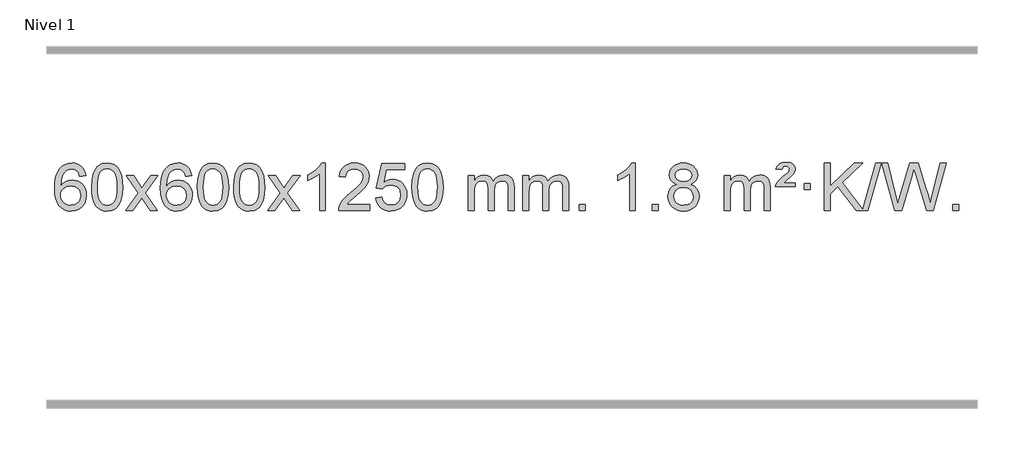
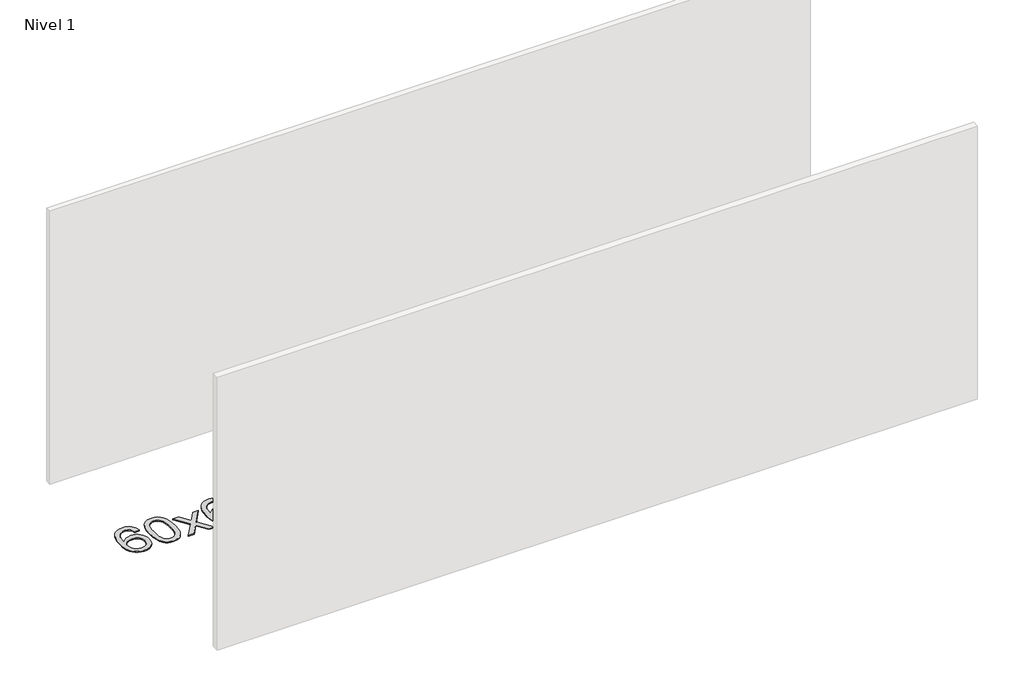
# One storey, part 6 of 8: 1 proxy.
"""IFC4 building model written with IfcOpenShell, lengths in millimetres."""

from ifc_helpers import new_model, si_unit, origin, origin_with_axes, place, context, project, spatial, polyline, outline, extrude, element, save

model = new_model("IFC4")

# Units and contexts
model_context = context("Model", 3, world=origin())
ifc_project = project(units=[si_unit("LENGTHUNIT", "METRE", prefix="MILLI")], contexts=[model_context])

# Site, building, storey
site = spatial("IfcSite", under=ifc_project)
building = spatial("IfcBuilding", under=site)
storey = spatial("IfcBuildingStorey", under=building, Name="Nivel 1", Elevation=0.0)

# Proxy
placement = place(None, origin())
element("IfcBuildingElementProxy", 1, Name="Texto de modelo 1", ObjectType="Texto de modelo 1", at=placement, inside=storey, context=model_context, shape_type="SweptSolid", body=[
    extrude(outline(polyline([(-6198.7504157, -3100.4890419), (-6248.9785708, -3106.7675613), (-6257.0719747, -3081.874213), (-6268.0103327, -3064.8780648), (-6290.7944909, -3049.2062918), (-6318.3365896, -3043.9823675), (-6341.6848336, -3047.0235253), (-6363.6596514, -3056.1469988), (-6382.5319978, -3075.3627017), (-6397.9462534, -3101.8134171), (-6408.3573138, -3139.227016), (-6412.2200748, -3191.3313693), (-6392.0724042, -3167.8237098), (-6367.9270826, -3151.2567573), (-6341.1330106, -3141.434308), (-6313.0390889, -3138.1601582), (-6288.90603, -3140.398107), (-6266.6369065, -3147.1119534), (-6246.2317185, -3158.3016975), (-6227.690466, -3173.9673391), (-6212.2823418, -3193.1769106), (-6201.2765387, -3214.9984443), (-6194.6730569, -3239.4319401), (-6192.4718963, -3266.4773982), (-6196.6167001, -3302.4439945), (-6209.0511116, -3335.786366), (-6228.745061, -3364.0642287), (-6254.668479, -3384.8372987), (-6285.644143, -3397.602804), (-6320.4948306, -3401.8579724), (-6350.4373594, -3399.0375437), (-6377.4797517, -3390.5762579), (-6401.6220076, -3376.4741147), (-6422.8641272, -3356.7311143), (-6440.1821721, -3330.5133908), (-6452.5522042, -3296.9870783), (-6459.9742234, -3256.1521768), (-6462.4482298, -3208.0086864), (-6459.7013776, -3154.0342663), (-6451.4608209, -3107.9693092), (-6437.7265598, -3069.8138149), (-6418.4985942, -3039.5677835), (-6397.6580791, -3019.5243462), (-6373.4943634, -3005.2076052), (-6346.007447, -2996.6175606), (-6315.1973299, -2993.7542124), (-6292.0636838, -2995.5261773), (-6271.1250669, -3000.8420722), (-6252.3814792, -3009.7018969), (-6235.8329208, -3022.1056515), (-6221.9269814, -3037.6364031), (-6211.1112507, -3055.8772186), (-6203.3857288, -3076.8280983), (-6198.7504157, -3100.4890419)]), holes=[polyline([(-6412.2200748, -3265.6925832), (-6409.313807, -3287.9494439), (-6400.5950037, -3309.2007605), (-6387.0569463, -3327.472233), (-6369.6929161, -3340.7895612), (-6348.7359051, -3348.9197533), (-6324.4189053, -3351.6298173), (-6291.2727375, -3346.0134855), (-6277.357601, -3338.9930708), (-6265.2144295, -3329.1644901), (-6255.3643891, -3316.9262824), (-6248.3286459, -3302.6769865), (-6242.7000514, -3268.1451299), (-6248.2550695, -3234.9989621), (-6255.1988422, -3221.3781312), (-6264.9201239, -3209.725469), (-6277.1000836, -3200.3904634), (-6291.4198903, -3193.7226022), (-6326.4790444, -3188.3883133), (-6359.5761613, -3193.7226022), (-6387.25315, -3209.725469), (-6398.1761796, -3221.2248471), (-6405.9783436, -3234.3858254), (-6410.659642, -3249.2084042), (-6412.2200748, -3265.6925832)])]), origin_with_axes(), (0.0, 0.0, 1.0), 10.0),
    extrude(outline(polyline([(-6148.5222606, -3197.9041943), (-6144.8311779, -3133.5861588), (-6133.7579299, -3082.2911459), (-6115.4128811, -3043.2343407), (-6103.5548181, -3028.0009605), (-6089.9063961, -3015.6309284), (-6074.4216298, -3006.0598651), (-6057.0545339, -2999.2233914), (-6016.6733536, -2993.7542124), (-5985.722215, -2996.991574), (-5958.0084381, -3006.7036586), (-5934.8318724, -3022.5103217), (-5917.4923677, -3044.0314184), (-5904.3957686, -3071.0830078), (-5893.94792, -3103.4811488), (-5887.1053149, -3144.6226186), (-5884.8244465, -3197.9041943), (-5888.478741, -3261.8543477), (-5899.4416244, -3313.0267333), (-5917.6763087, -3352.1203266), (-5929.5067805, -3367.3996922), (-5943.1460055, -3379.8341036), (-5958.6491659, -3389.4695462), (-5976.071444, -3396.3520052), (-6016.6733536, -3401.8579724), (-6044.3380796, -3399.4667394), (-6068.8635459, -3392.2930405), (-6090.2497526, -3380.3368757), (-6108.4966996, -3363.5982449), (-6126.0078825, -3333.3399508), (-6138.5158704, -3295.6381776), (-6146.0206631, -3250.4929255), (-6148.5222606, -3197.9041943)]), holes=[polyline([(-6098.2941056, -3197.8060924), (-6096.8225776, -3241.4706195), (-6092.4079936, -3276.8148822), (-6085.0503537, -3303.8388804), (-6074.7496579, -3322.5426142), (-6062.290721, -3335.2682656), (-6048.4583579, -3344.3580165), (-6033.2525688, -3349.8118671), (-6016.6733536, -3351.6298173), (-6000.0941383, -3349.8057357), (-5984.8883492, -3344.3334911), (-5971.0559862, -3335.2130833), (-5958.5970493, -3322.4445124), (-5948.2963534, -3303.7101217), (-5940.9387135, -3276.6922549), (-5936.5241295, -3241.3909118), (-5935.0526016, -3197.8060924), (-5936.4750786, -3155.2973278), (-5940.7425098, -3120.5753989), (-5947.854895, -3093.6403055), (-5957.8122343, -3074.4920476), (-5970.0627048, -3061.1440625), (-5984.0544833, -3051.6097875), (-5999.78757, -3045.8892225), (-6017.2619648, -3043.9823675), (-6033.7553409, -3045.6623619), (-6048.7036126, -3050.7023452), (-6062.10678, -3059.1023175), (-6073.9648429, -3070.8622786), (-6084.6088953, -3091.708925), (-6092.2117899, -3119.8151094), (-6096.7735266, -3155.1808319), (-6098.2941056, -3197.8060924)])]), origin_with_axes(), (0.0, 0.0, 1.0), 10.0),
    extrude(outline(polyline([(-5859.7103689, -3395.579453), (-5752.3869282, -3247.2494325), (-5853.4318496, -3100.4890419), (-5793.0011005, -3100.4890419), (-5744.2444734, -3171.122385), (-5721.4848406, -3204.4770192), (-5701.7663657, -3177.2047007), (-5646.2407099, -3100.4890419), (-5585.8099608, -3100.4890419), (-5691.9561791, -3247.2494325), (-5589.7340354, -3395.579453), (-5650.1647845, -3395.579453), (-5711.6746541, -3306.4048574), (-5722.9563686, -3290.1199477), (-5799.2796199, -3395.579453), (-5859.7103689, -3395.579453)])), origin_with_axes(), (0.0, 0.0, 1.0), 10.0),
    extrude(outline(polyline([(-5300.9221437, -3100.4890419), (-5351.1502988, -3106.7675613), (-5359.2437027, -3081.874213), (-5370.1820607, -3064.8780648), (-5392.9662189, -3049.2062918), (-5420.5083176, -3043.9823675), (-5443.8565616, -3047.0235253), (-5465.8313794, -3056.1469988), (-5484.7037258, -3075.3627017), (-5500.1179814, -3101.8134171), (-5510.5290419, -3139.227016), (-5514.3918028, -3191.3313693), (-5494.2441322, -3167.8237098), (-5470.0988106, -3151.2567573), (-5443.3047386, -3141.434308), (-5415.2108169, -3138.1601582), (-5391.077758, -3140.398107), (-5368.8086346, -3147.1119534), (-5348.4034466, -3158.3016975), (-5329.862194, -3173.9673391), (-5314.4540698, -3193.1769106), (-5303.4482668, -3214.9984443), (-5296.844785, -3239.4319401), (-5294.6436244, -3266.4773982), (-5298.7884282, -3302.4439945), (-5311.2228396, -3335.786366), (-5330.9167891, -3364.0642287), (-5356.840207, -3384.8372987), (-5387.815871, -3397.602804), (-5422.6665587, -3401.8579724), (-5452.6090874, -3399.0375437), (-5479.6514797, -3390.5762579), (-5503.7937357, -3376.4741147), (-5525.0358552, -3356.7311143), (-5542.3539001, -3330.5133908), (-5554.7239322, -3296.9870783), (-5562.1459515, -3256.1521768), (-5564.6199579, -3208.0086864), (-5561.8731057, -3154.0342663), (-5553.632549, -3107.9693092), (-5539.8982878, -3069.8138149), (-5520.6703222, -3039.5677835), (-5499.8298072, -3019.5243462), (-5475.6660915, -3005.2076052), (-5448.179175, -2996.6175606), (-5417.3690579, -2993.7542124), (-5394.2354118, -2995.5261773), (-5373.2967949, -3000.8420722), (-5354.5532073, -3009.7018969), (-5338.0046489, -3022.1056515), (-5324.0987094, -3037.6364031), (-5313.2829788, -3055.8772186), (-5305.5574569, -3076.8280983), (-5300.9221437, -3100.4890419)]), holes=[polyline([(-5514.3918028, -3265.6925832), (-5511.485535, -3287.9494439), (-5502.7667318, -3309.2007605), (-5489.2286743, -3327.472233), (-5471.8646442, -3340.7895612), (-5450.9076332, -3348.9197533), (-5426.5906333, -3351.6298173), (-5393.4444655, -3346.0134855), (-5379.5293291, -3338.9930708), (-5367.3861575, -3329.1644901), (-5357.5361171, -3316.9262824), (-5350.500374, -3302.6769865), (-5344.8717794, -3268.1451299), (-5350.4267976, -3234.9989621), (-5357.3705702, -3221.3781312), (-5367.0918519, -3209.725469), (-5379.2718117, -3200.3904634), (-5393.5916183, -3193.7226022), (-5428.6507725, -3188.3883133), (-5461.7478893, -3193.7226022), (-5489.4248781, -3209.725469), (-5500.3479076, -3221.2248471), (-5508.1500716, -3234.3858254), (-5512.83137, -3249.2084042), (-5514.3918028, -3265.6925832)])]), origin_with_axes(), (0.0, 0.0, 1.0), 10.0),
    extrude(outline(polyline([(-5250.6939887, -3197.9041943), (-5247.002906, -3133.5861588), (-5235.9296579, -3082.2911459), (-5217.5846091, -3043.2343407), (-5205.7265461, -3028.0009605), (-5192.0781241, -3015.6309284), (-5176.5933578, -3006.0598651), (-5159.2262619, -2999.2233914), (-5118.8450816, -2993.7542124), (-5087.8939431, -2996.991574), (-5060.1801661, -3006.7036586), (-5037.0036004, -3022.5103217), (-5019.6640957, -3044.0314184), (-5006.5674967, -3071.0830078), (-4996.119648, -3103.4811488), (-4989.2770429, -3144.6226186), (-4986.9961745, -3197.9041943), (-4990.650469, -3261.8543477), (-5001.6133525, -3313.0267333), (-5019.8480367, -3352.1203266), (-5031.6785085, -3367.3996922), (-5045.3177335, -3379.8341036), (-5060.8208939, -3389.4695462), (-5078.2431721, -3396.3520052), (-5118.8450816, -3401.8579724), (-5146.5098076, -3399.4667394), (-5171.035274, -3392.2930405), (-5192.4214806, -3380.3368757), (-5210.6684276, -3363.5982449), (-5228.1796106, -3333.3399508), (-5240.6875984, -3295.6381776), (-5248.1923911, -3250.4929255), (-5250.6939887, -3197.9041943)]), holes=[polyline([(-5200.4658336, -3197.8060924), (-5198.9943056, -3241.4706195), (-5194.5797217, -3276.8148822), (-5187.2220818, -3303.8388804), (-5176.9213859, -3322.5426142), (-5164.462449, -3335.2682656), (-5150.630086, -3344.3580165), (-5135.4242968, -3349.8118671), (-5118.8450816, -3351.6298173), (-5102.2658663, -3349.8057357), (-5087.0600772, -3344.3334911), (-5073.2277142, -3335.2130833), (-5060.7687773, -3322.4445124), (-5050.4680814, -3303.7101217), (-5043.1104415, -3276.6922549), (-5038.6958576, -3241.3909118), (-5037.2243296, -3197.8060924), (-5038.6468066, -3155.2973278), (-5042.9142378, -3120.5753989), (-5050.026623, -3093.6403055), (-5059.9839624, -3074.4920476), (-5072.2344328, -3061.1440625), (-5086.2262114, -3051.6097875), (-5101.959298, -3045.8892225), (-5119.4336928, -3043.9823675), (-5135.9270689, -3045.6623619), (-5150.8753406, -3050.7023452), (-5164.278508, -3059.1023175), (-5176.136571, -3070.8622786), (-5186.7806234, -3091.708925), (-5194.3835179, -3119.8151094), (-5198.9452547, -3155.1808319), (-5200.4658336, -3197.8060924)])]), origin_with_axes(), (0.0, 0.0, 1.0), 10.0),
    extrude(outline(polyline([(-4943.0465388, -3197.9041943), (-4939.3554561, -3133.5861588), (-4928.2822081, -3082.2911459), (-4909.9371593, -3043.2343407), (-4898.0790963, -3028.0009605), (-4884.4306743, -3015.6309284), (-4868.945908, -3006.0598651), (-4851.5788121, -2999.2233914), (-4811.1976318, -2993.7542124), (-4780.2464932, -2996.991574), (-4752.5327163, -3006.7036586), (-4729.3561506, -3022.5103217), (-4712.0166459, -3044.0314184), (-4698.9200468, -3071.0830078), (-4688.4721982, -3103.4811488), (-4681.6295931, -3144.6226186), (-4679.3487247, -3197.9041943), (-4683.0030192, -3261.8543477), (-4693.9659026, -3313.0267333), (-4712.2005869, -3352.1203266), (-4724.0310587, -3367.3996922), (-4737.6702837, -3379.8341036), (-4753.1734441, -3389.4695462), (-4770.5957222, -3396.3520052), (-4811.1976318, -3401.8579724), (-4838.8623578, -3399.4667394), (-4863.3878241, -3392.2930405), (-4884.7740308, -3380.3368757), (-4903.0209778, -3363.5982449), (-4920.5321607, -3333.3399508), (-4933.0401486, -3295.6381776), (-4940.5449413, -3250.4929255), (-4943.0465388, -3197.9041943)]), holes=[polyline([(-4892.8183838, -3197.8060924), (-4891.3468558, -3241.4706195), (-4886.9322718, -3276.8148822), (-4879.5746319, -3303.8388804), (-4869.2739361, -3322.5426142), (-4856.8149992, -3335.2682656), (-4842.9826361, -3344.3580165), (-4827.776847, -3349.8118671), (-4811.1976318, -3351.6298173), (-4794.6184165, -3349.8057357), (-4779.4126274, -3344.3334911), (-4765.5802644, -3335.2130833), (-4753.1213275, -3322.4445124), (-4742.8206316, -3303.7101217), (-4735.4629917, -3276.6922549), (-4731.0484077, -3241.3909118), (-4729.5768798, -3197.8060924), (-4730.9993568, -3155.2973278), (-4735.266788, -3120.5753989), (-4742.3791732, -3093.6403055), (-4752.3365125, -3074.4920476), (-4764.586983, -3061.1440625), (-4778.5787615, -3051.6097875), (-4794.3118482, -3045.8892225), (-4811.786243, -3043.9823675), (-4828.2796191, -3045.6623619), (-4843.2278908, -3050.7023452), (-4856.6310582, -3059.1023175), (-4868.4891211, -3070.8622786), (-4879.1331735, -3091.708925), (-4886.7360681, -3119.8151094), (-4891.2978048, -3155.1808319), (-4892.8183838, -3197.8060924)])]), origin_with_axes(), (0.0, 0.0, 1.0), 10.0),
    extrude(outline(polyline([(-4654.2346472, -3395.579453), (-4546.9112064, -3247.2494325), (-4647.9561278, -3100.4890419), (-4587.5253787, -3100.4890419), (-4538.7687516, -3171.122385), (-4516.0091188, -3204.4770192), (-4496.2906439, -3177.2047007), (-4440.7649881, -3100.4890419), (-4380.334239, -3100.4890419), (-4486.4804574, -3247.2494325), (-4384.2583136, -3395.579453), (-4444.6890627, -3395.579453), (-4506.1989323, -3306.4048574), (-4517.4806468, -3290.1199477), (-4593.8038981, -3395.579453), (-4654.2346472, -3395.579453)])), origin_with_axes(), (0.0, 0.0, 1.0), 10.0),
    extrude(outline(polyline([(-4164.5101352, -3395.579453), (-4214.7382902, -3395.579453), (-4214.7382902, -3082.4382987), (-4235.707564, -3099.3976587), (-4262.317695, -3116.3324932), (-4315.1946004, -3141.6918254), (-4315.1946004, -3094.2105225), (-4275.7453878, -3072.7507395), (-4241.5691504, -3047.219729), (-4214.6279257, -3020.0700378), (-4196.8837508, -2993.7542124), (-4164.5101352, -2993.7542124), (-4164.5101352, -3395.579453)])), origin_with_axes(), (0.0, 0.0, 1.0), 10.0),
    extrude(outline(polyline([(-3787.7989721, -3345.3512979), (-3787.7989721, -3395.579453), (-4051.4967863, -3395.579453), (-4050.3931403, -3377.8965918), (-4046.1011837, -3360.9494945), (-4033.7158232, -3333.8856424), (-4015.5915035, -3307.6311307), (-3989.37378, -3280.1503456), (-3952.7082078, -3249.4076736), (-3898.5069272, -3201.2641831), (-3865.9861588, -3165.7267824), (-3849.7257746, -3136.884834), (-3844.3056466, -3108.8277005), (-3849.4192063, -3083.6768347), (-3864.7598855, -3062.7688747), (-3888.3411214, -3048.6789943), (-3918.1763512, -3043.9823675), (-3949.5076345, -3048.5686297), (-3973.8491598, -3062.3274163), (-3989.557721, -3084.1796068), (-3994.9901118, -3113.0460807), (-4045.2182669, -3106.7675613), (-4040.8987191, -3080.838012), (-4033.0413728, -3058.1826125), (-4021.646228, -3038.8013627), (-4006.7132847, -3022.6942627), (-3988.5858994, -3010.0329907), (-3967.6074286, -3000.989225), (-3943.7778724, -2995.5629655), (-3917.0972307, -2993.7542124), (-3890.1774657, -2995.7653006), (-3866.2191508, -3001.7985654), (-3845.2222859, -3011.8540066), (-3827.1868711, -3025.9316242), (-3812.7015175, -3042.9890861), (-3802.3548364, -3061.9840598), (-3796.1468277, -3082.9165453), (-3794.0774915, -3105.7865427), (-3796.3093089, -3129.8092369), (-3803.0047612, -3153.4149983), (-3814.8873497, -3177.4254299), (-3832.6805755, -3202.6621347), (-3861.0442774, -3232.7916701), (-3904.6382938, -3271.4805933), (-3962.4202925, -3319.795762), (-3985.0818234, -3345.3512979), (-3787.7989721, -3345.3512979)])), origin_with_axes(), (0.0, 0.0, 1.0), 10.0),
    extrude(outline(polyline([(-3737.570817, -3288.8446235), (-3687.342662, -3282.5661041), (-3678.1210866, -3312.7201649), (-3662.0323807, -3334.3148381), (-3639.1501206, -3347.3010725), (-3609.5478827, -3351.6298173), (-3590.418019, -3350.1245668), (-3573.5444981, -3345.6088153), (-3558.9273202, -3338.0825628), (-3546.5664851, -3327.5458094), (-3536.7379045, -3314.519721), (-3529.7174898, -3299.5254641), (-3524.101158, -3263.6324441), (-3529.3618705, -3229.8363514), (-3535.9377612, -3215.9181493), (-3545.1440081, -3203.9865099), (-3557.0112681, -3194.4154467), (-3571.5701981, -3187.5789729), (-3608.7630678, -3182.1097939), (-3633.1291186, -3184.2925604), (-3652.8598563, -3190.8408599), (-3668.6174684, -3200.8717757), (-3681.0641426, -3213.5023908), (-3731.2922977, -3207.2238715), (-3687.342662, -3000.0327318), (-3492.708561, -3000.0327318), (-3492.708561, -3050.2608869), (-3646.7284897, -3050.2608869), (-3668.2127982, -3160.919791), (-3650.4870174, -3148.2155994), (-3632.332041, -3139.1411769), (-3613.7478688, -3133.6965234), (-3594.734501, -3131.8816388), (-3570.273414, -3134.1318504), (-3547.8050212, -3140.882485), (-3527.3293225, -3152.1335427), (-3508.8463179, -3167.8850234), (-3493.5454926, -3187.1743027), (-3482.6163316, -3209.038756), (-3476.0588351, -3233.4783832), (-3473.8730029, -3260.4931844), (-3475.8411716, -3286.5147042), (-3481.7456776, -3310.7213394), (-3491.586521, -3333.1130902), (-3505.3637017, -3353.6899565), (-3526.2348735, -3374.7634634), (-3550.5886616, -3389.8159684), (-3578.4250659, -3398.8474714), (-3609.7440864, -3401.8579724), (-3635.6644387, -3399.9235262), (-3659.077062, -3394.1201877), (-3679.9819564, -3384.447957), (-3698.3791218, -3370.9068338), (-3713.6860785, -3354.1712688), (-3725.3203466, -3334.915712), (-3733.2819261, -3313.1401636), (-3737.570817, -3288.8446235)])), origin_with_axes(), (0.0, 0.0, 1.0), 10.0),
    extrude(outline(polyline([(-3429.9233672, -3197.9041943), (-3426.2322845, -3133.5861588), (-3415.1590365, -3082.2911459), (-3396.8139876, -3043.2343407), (-3384.9559247, -3028.0009605), (-3371.3075026, -3015.6309284), (-3355.8227363, -3006.0598651), (-3338.4556405, -2999.2233914), (-3298.0744601, -2993.7542124), (-3267.1233216, -2996.991574), (-3239.4095446, -3006.7036586), (-3216.2329789, -3022.5103217), (-3198.8934742, -3044.0314184), (-3185.7968752, -3071.0830078), (-3175.3490265, -3103.4811488), (-3168.5064214, -3144.6226186), (-3166.2255531, -3197.9041943), (-3169.8798475, -3261.8543477), (-3180.842731, -3313.0267333), (-3199.0774152, -3352.1203266), (-3210.9078871, -3367.3996922), (-3224.547112, -3379.8341036), (-3240.0502724, -3389.4695462), (-3257.4725506, -3396.3520052), (-3298.0744601, -3401.8579724), (-3325.7391862, -3399.4667394), (-3350.2646525, -3392.2930405), (-3371.6508592, -3380.3368757), (-3389.8978061, -3363.5982449), (-3407.4089891, -3333.3399508), (-3419.9169769, -3295.6381776), (-3427.4217696, -3250.4929255), (-3429.9233672, -3197.9041943)]), holes=[polyline([(-3379.6952121, -3197.8060924), (-3378.2236842, -3241.4706195), (-3373.8091002, -3276.8148822), (-3366.4514603, -3303.8388804), (-3356.1507644, -3322.5426142), (-3343.6918275, -3335.2682656), (-3329.8594645, -3344.3580165), (-3314.6536754, -3349.8118671), (-3298.0744601, -3351.6298173), (-3281.4952449, -3349.8057357), (-3266.2894558, -3344.3334911), (-3252.4570927, -3335.2130833), (-3239.9981558, -3322.4445124), (-3229.69746, -3303.7101217), (-3222.3398201, -3276.6922549), (-3217.9252361, -3241.3909118), (-3216.4537081, -3197.8060924), (-3217.8761852, -3155.2973278), (-3222.1436163, -3120.5753989), (-3229.2560016, -3093.6403055), (-3239.2133409, -3074.4920476), (-3251.4638113, -3061.1440625), (-3265.4555899, -3051.6097875), (-3281.1886766, -3045.8892225), (-3298.6630713, -3043.9823675), (-3315.1564474, -3045.6623619), (-3330.1047192, -3050.7023452), (-3343.5078865, -3059.1023175), (-3355.3659495, -3070.8622786), (-3366.0100019, -3091.708925), (-3373.6128965, -3119.8151094), (-3378.1746332, -3155.1808319), (-3379.6952121, -3197.8060924)])]), origin_with_axes(), (0.0, 0.0, 1.0), 10.0),
    extrude(outline(polyline([(-2952.755894, -3395.579453), (-2952.755894, -3100.4890419), (-2902.5277389, -3100.4890419), (-2902.5277389, -3149.0494653), (-2887.4200517, -3126.7435537), (-2867.9958823, -3109.2691589), (-2844.9174185, -3097.9751816), (-2818.8468478, -3094.2105225), (-2790.9123416, -3098.048758), (-2768.5205908, -3109.5634645), (-2751.7942228, -3127.9943524), (-2740.8558648, -3152.5811324), (-2722.5476041, -3127.0439906), (-2701.6641696, -3108.803175), (-2678.205561, -3097.8586857), (-2652.1717785, -3094.2105225), (-2632.0639617, -3095.7280358), (-2614.414823, -3100.2805755), (-2599.2243623, -3107.8681416), (-2586.4925796, -3118.4907342), (-2576.4279413, -3132.2709806), (-2569.238914, -3149.3315082), (-2564.9254976, -3169.6723168), (-2563.4876922, -3193.2934066), (-2563.4876922, -3395.579453), (-2613.7158472, -3395.579453), (-2613.7158472, -3214.875817), (-2614.8808069, -3189.8230531), (-2618.3756858, -3172.9372695), (-2624.9239854, -3161.3735121), (-2635.2492067, -3152.2868268), (-2648.5297467, -3146.4007149), (-2663.9440023, -3144.4386776), (-2691.1550072, -3149.4663982), (-2713.3382915, -3164.54956), (-2721.9436645, -3176.1194488), (-2728.0903595, -3190.7182326), (-2733.0077155, -3229.0024856), (-2733.0077155, -3395.579453), (-2783.2358706, -3395.579453), (-2783.2358706, -3209.2840106), (-2786.1421384, -3180.8835206), (-2794.8609417, -3160.6254854), (-2810.2016209, -3148.4853796), (-2832.9735164, -3144.4386776), (-2852.3241093, -3147.1364789), (-2870.1541233, -3155.2298828), (-2884.8694032, -3168.5226856), (-2894.8757934, -3186.8186835), (-2900.6147525, -3212.2025411), (-2902.5277389, -3246.7589232), (-2902.5277389, -3395.579453), (-2952.755894, -3395.579453)])), origin_with_axes(), (0.0, 0.0, 1.0), 10.0),
    extrude(outline(polyline([(-2488.1454596, -3395.579453), (-2488.1454596, -3100.4890419), (-2437.9173045, -3100.4890419), (-2437.9173045, -3149.0494653), (-2422.8096172, -3126.7435537), (-2403.3854479, -3109.2691589), (-2380.306984, -3097.9751816), (-2354.2364133, -3094.2105225), (-2326.3019071, -3098.048758), (-2303.9101564, -3109.5634645), (-2287.1837883, -3127.9943524), (-2276.2454303, -3152.5811324), (-2257.9371697, -3127.0439906), (-2237.0537351, -3108.803175), (-2213.5951266, -3097.8586857), (-2187.561344, -3094.2105225), (-2167.4535273, -3095.7280358), (-2149.8043886, -3100.2805755), (-2134.6139279, -3107.8681416), (-2121.8821452, -3118.4907342), (-2111.8175069, -3132.2709806), (-2104.6284796, -3149.3315082), (-2100.3150632, -3169.6723168), (-2098.8772577, -3193.2934066), (-2098.8772577, -3395.579453), (-2149.1054128, -3395.579453), (-2149.1054128, -3214.875817), (-2150.2703724, -3189.8230531), (-2153.7652514, -3172.9372695), (-2160.3135509, -3161.3735121), (-2170.6387722, -3152.2868268), (-2183.9193123, -3146.4007149), (-2199.3335679, -3144.4386776), (-2226.5445728, -3149.4663982), (-2248.7278571, -3164.54956), (-2257.3332301, -3176.1194488), (-2263.4799251, -3190.7182326), (-2268.3972811, -3229.0024856), (-2268.3972811, -3395.579453), (-2318.6254362, -3395.579453), (-2318.6254362, -3209.2840106), (-2321.5317039, -3180.8835206), (-2330.2505072, -3160.6254854), (-2345.5911864, -3148.4853796), (-2368.3630819, -3144.4386776), (-2387.7136749, -3147.1364789), (-2405.5436889, -3155.2298828), (-2420.2589687, -3168.5226856), (-2430.265359, -3186.8186835), (-2436.0043181, -3212.2025411), (-2437.9173045, -3246.7589232), (-2437.9173045, -3395.579453), (-2488.1454596, -3395.579453)])), origin_with_axes(), (0.0, 0.0, 1.0), 10.0),
    extrude(outline(polyline([(-2010.9779863, -3395.579453), (-2010.9779863, -3345.3512979), (-1960.7498313, -3345.3512979), (-1960.7498313, -3395.579453), (-2010.9779863, -3395.579453)])), origin_with_axes(), (0.0, 0.0, 1.0), 10.0),
    extrude(outline(polyline([(-1533.8105131, -3395.579453), (-1584.0386682, -3395.579453), (-1584.0386682, -3082.4382987), (-1605.0079419, -3099.3976587), (-1631.6180729, -3116.3324932), (-1684.4949784, -3141.6918254), (-1684.4949784, -3094.2105225), (-1645.0457657, -3072.7507395), (-1610.8695284, -3047.219729), (-1583.9283036, -3020.0700378), (-1566.1841287, -2993.7542124), (-1533.8105131, -2993.7542124), (-1533.8105131, -3395.579453)])), origin_with_axes(), (0.0, 0.0, 1.0), 10.0),
    extrude(outline(polyline([(-1389.4045673, -3395.579453), (-1389.4045673, -3345.3512979), (-1339.1764122, -3345.3512979), (-1339.1764122, -3395.579453), (-1389.4045673, -3395.579453)])), origin_with_axes(), (0.0, 0.0, 1.0), 10.0),
    extrude(outline(polyline([(-1184.3716686, -3174.2616447), (-1211.2638425, -3161.0178929), (-1230.1361888, -3143.0652515), (-1241.2830133, -3120.7716026), (-1244.9986215, -3094.5048281), (-1242.9752705, -3074.0199324), (-1236.9052176, -3055.2395565), (-1226.7884627, -3038.1637006), (-1212.6250059, -3022.7923645), (-1195.0954288, -3010.088173), (-1174.8803132, -3001.0137504), (-1151.979659, -2995.5690969), (-1126.3934662, -2993.7542124), (-1100.6846461, -2995.6120165), (-1077.6123136, -3001.1854287), (-1057.1764688, -3010.4744491), (-1039.3771116, -3023.4790776), (-1024.9561374, -3039.1508506), (-1014.6554415, -3056.4413044), (-1008.475024, -3075.3504389), (-1006.4148848, -3095.8782543), (-1010.0814421, -3121.2989001), (-1021.0811137, -3143.2124043), (-1039.5365271, -3161.0546811), (-1065.5703097, -3174.2616447), (-1034.6559593, -3190.1909351), (-1012.153844, -3213.6495436), (-998.4318456, -3243.5092989), (-993.8578461, -3278.6420295), (-996.1264517, -3303.6947933), (-1002.9322686, -3326.6628926), (-1014.2752968, -3347.5463272), (-1030.1555363, -3366.3450971), (-1049.7391211, -3381.88198), (-1072.1921856, -3392.9797536), (-1097.5147296, -3399.6384177), (-1125.7067531, -3401.8579724), (-1153.8987767, -3399.6292206), (-1179.2213207, -3392.9429654), (-1201.6743852, -3381.7992066), (-1221.25797, -3366.1979443), (-1237.1382095, -3347.26735), (-1248.4812377, -3326.135595), (-1255.2870546, -3302.8026795), (-1257.5556602, -3277.2686033), (-1252.7977197, -3240.7747094), (-1238.5238983, -3210.7555386), (-1215.46996, -3188.2411605), (-1184.3716686, -3174.2616447)]), holes=[polyline([(-1194.7704664, -3095.9763561), (-1190.3190942, -3117.902123), (-1176.9649778, -3135.413306), (-1155.1005246, -3146.8912243), (-1125.118142, -3150.717197), (-1095.8347351, -3146.9157497), (-1074.3013757, -3135.5114079), (-1061.0576239, -3118.5888361), (-1056.6430399, -3098.232699), (-1061.2047767, -3077.1040098), (-1074.8899869, -3059.629615), (-1096.7176519, -3047.8941794), (-1125.7067531, -3043.9823675), (-1154.8797954, -3047.8083402), (-1176.6706722, -3059.2862585), (-1190.2455178, -3076.1107284), (-1194.7704664, -3095.9763561)]), polyline([(-1207.3275051, -3275.5027698), (-1205.2305778, -3294.7184726), (-1198.9397957, -3313.3210389), (-1187.3269873, -3329.5446349), (-1169.2639814, -3341.623427), (-1147.6325201, -3349.1282197), (-1125.3143457, -3351.6298173), (-1091.1258456, -3346.3691048), (-1077.2321689, -3339.7932141), (-1065.4722078, -3330.5869672), (-1049.4325528, -3306.6869002), (-1044.0860012, -3277.0723996), (-1049.6042311, -3246.9551269), (-1066.1589209, -3222.5277625), (-1078.237713, -3213.0854579), (-1092.4011699, -3206.3409547), (-1126.9820774, -3200.9453521), (-1160.6923309, -3206.2673783), (-1174.4296577, -3212.919911), (-1186.0884513, -3222.2334569), (-1202.0177417, -3246.1948375), (-1207.3275051, -3275.5027698)])]), origin_with_axes(), (0.0, 0.0, 1.0), 10.0),
    extrude(outline(polyline([(-780.388187, -3395.579453), (-780.388187, -3100.4890419), (-730.1600319, -3100.4890419), (-730.1600319, -3149.0494653), (-715.0523447, -3126.7435537), (-695.6281753, -3109.2691589), (-672.5497115, -3097.9751816), (-646.4791408, -3094.2105225), (-618.5446346, -3098.048758), (-596.1528838, -3109.5634645), (-579.4265158, -3127.9943524), (-568.4881578, -3152.5811324), (-550.1798972, -3127.0439906), (-529.2964626, -3108.803175), (-505.837854, -3097.8586857), (-479.8040715, -3094.2105225), (-459.6962548, -3095.7280358), (-442.047116, -3100.2805755), (-426.8566553, -3107.8681416), (-414.1248726, -3118.4907342), (-404.0602344, -3132.2709806), (-396.871207, -3149.3315082), (-392.5577906, -3169.6723168), (-391.1199852, -3193.2934066), (-391.1199852, -3395.579453), (-441.3481403, -3395.579453), (-441.3481403, -3214.875817), (-442.5130999, -3189.8230531), (-446.0079789, -3172.9372695), (-452.5562784, -3161.3735121), (-462.8814997, -3152.2868268), (-476.1620397, -3146.4007149), (-491.5762953, -3144.4386776), (-518.7873002, -3149.4663982), (-540.9705845, -3164.54956), (-549.5759576, -3176.1194488), (-555.7226526, -3190.7182326), (-560.6400086, -3229.0024856), (-560.6400086, -3395.579453), (-610.8681636, -3395.579453), (-610.8681636, -3209.2840106), (-613.7744314, -3180.8835206), (-622.4932347, -3160.6254854), (-637.8339139, -3148.4853796), (-660.6058094, -3144.4386776), (-679.9564023, -3147.1364789), (-697.7864164, -3155.2298828), (-712.5016962, -3168.5226856), (-722.5080864, -3186.8186835), (-728.2470456, -3212.2025411), (-730.1600319, -3246.7589232), (-730.1600319, -3395.579453), (-780.388187, -3395.579453)])), origin_with_axes(), (0.0, 0.0, 1.0), 10.0),
    extrude(outline(polyline([(-347.1703495, -3194.6668327), (-343.3443767, -3178.8479069), (-335.0057182, -3162.9799302), (-313.4968842, -3137.8413272), (-281.5402016, -3110.1030247), (-237.3943621, -3072.726214), (-230.2574514, -3061.1992448), (-227.8784812, -3049.3779701), (-229.7669421, -3037.2869152), (-235.4323248, -3027.5012541), (-244.801053, -3021.026531), (-257.7995501, -3018.8682899), (-270.2339616, -3020.4869707), (-279.0876549, -3025.343013), (-285.5133271, -3034.8098431), (-290.663675, -3050.2608869), (-340.8918301, -3043.9823675), (-330.051574, -3018.7701881), (-313.4233078, -3001.2099542), (-289.6581309, -2990.9092583), (-257.4071427, -2987.475693), (-221.6244873, -2991.6082341), (-196.8782917, -3004.0058573), (-182.4573175, -3022.3386434), (-177.6503261, -3044.2766731), (-181.746079, -3067.1834586), (-194.0333376, -3088.8149199), (-214.561153, -3108.6314968), (-251.0305214, -3136.6886303), (-276.6351083, -3163.2742358), (-177.6503261, -3163.2742358), (-177.6503261, -3194.6668327), (-347.1703495, -3194.6668327)])), origin_with_axes(), (0.0, 0.0, 1.0), 10.0),
    extrude(outline(polyline([(-102.3080935, -3219.7809102), (-102.3080935, -3169.5527552), (-52.0799384, -3169.5527552), (-52.0799384, -3219.7809102), (-102.3080935, -3219.7809102)])), origin_with_axes(), (0.0, 0.0, 1.0), 10.0),
    extrude(outline(polyline([(338.5616895, -3395.579453), (185.1303721, -3192.9009991), (117.440085, -3257.4520265), (117.440085, -3395.579453), (67.2119299, -3395.579453), (67.2119299, -2993.7542124), (117.440085, -2993.7542124), (117.440085, -3190.4484525), (323.4540023, -2993.7542124), (393.6949379, -2993.7542124), (220.7413492, -3158.9577537), (395.3949591, -3389.5349332), (506.7082868, -2993.7542124), (552.0313486, -2993.7542124), (439.0179997, -3395.579453), (399.9734572, -3395.579453), (393.6949379, -3395.579453), (338.5616895, -3395.579453)])), origin_with_axes(), (0.0, 0.0, 1.0), 10.0),
    extrude(outline(polyline([(666.5162255, -3395.579453), (556.9364419, -2993.7542124), (608.7342268, -2993.7542124), (672.3042355, -3257.844434), (691.9246086, -3339.3670841), (712.9184078, -3267.2622131), (792.5771225, -2993.7542124), (867.2326421, -2993.7542124), (925.1127426, -3192.0180823), (949.9079891, -3265.5944814), (968.1794615, -3339.3670841), (987.2112234, -3260.1988788), (1051.3698434, -2993.7542124), (1103.1676283, -2993.7542124), (993.4897428, -3395.579453), (939.8280224, -3395.579453), (843.4919906, -3085.5775584), (830.0520351, -3042.3146358), (814.9443478, -3094.4067263), (727.1431783, -3395.579453), (666.5162255, -3395.579453)])), origin_with_axes(), (0.0, 0.0, 1.0), 10.0),
    extrude(outline(polyline([(1159.6743028, -3395.579453), (1159.6743028, -3345.3512979), (1209.9024578, -3345.3512979), (1209.9024578, -3395.579453), (1159.6743028, -3395.579453)])), origin_with_axes(), (0.0, 0.0, 1.0), 10.0),
])

save(model, "model.ifc")
